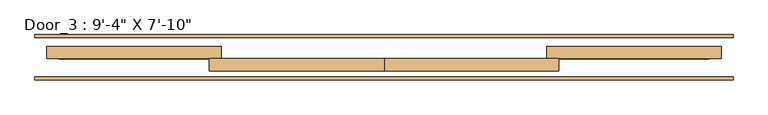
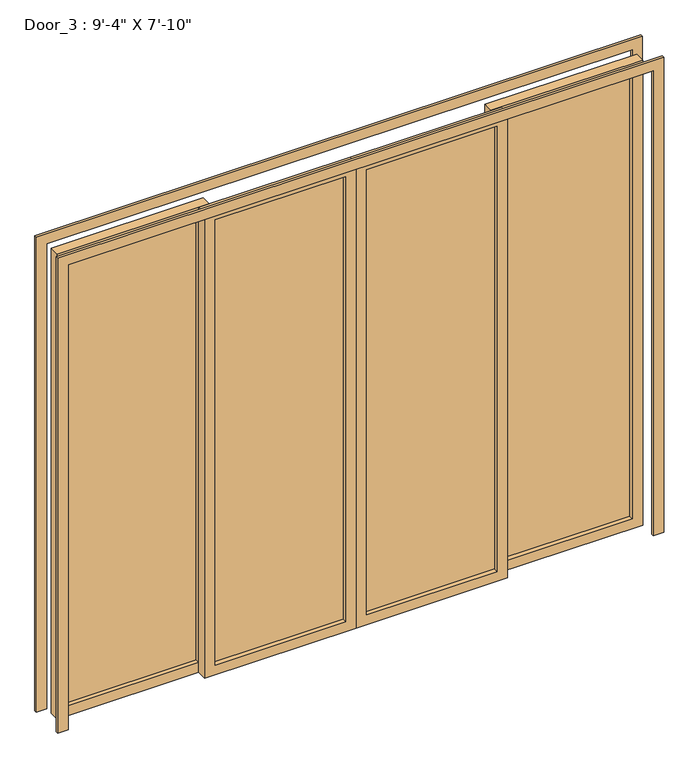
"""IFC4 building model written with IfcOpenShell, lengths in millimetres: door geometry."""

from ifc_helpers import new_model, si_unit, frame, origin, place, context, project, spatial, polyline, outline, extrude, source, transform, mapped, element, save


def door_06ff4b2b(model_context):
    return source(origin(), model_context, "Body", "SweptSolid", [
        extrude(outline(polyline([(2387.6, 1422.4), (0.0, 1422.4), (0.0, 1473.2), (2438.4, 1473.2), (2438.4, -1473.2), (0.0, -1473.2), (0.0, -1422.4), (2387.6, -1422.4), (2387.6, 1422.4)])), frame((0.0, 209.55, 0.0), z_axis=(0.0, 1.0, 0.0), x_axis=(0.0, 0.0, 1.0)), (0.0, 0.0, 1.0), 12.7),
        extrude(outline(polyline([(0.0, 1422.4), (0.0, 1473.2), (2438.4, 1473.2), (2438.4, -1473.2), (0.0, -1473.2), (0.0, -1422.4), (2387.6, -1422.4), (2387.6, 1422.4), (0.0, 1422.4)])), frame((0.0, 31.75, 0.0), z_axis=(0.0, 1.0, 0.0), x_axis=(0.0, 0.0, 1.0)), (0.0, 0.0, 1.0), 12.7),
        extrude(outline(polyline([(-685.8, 101.6), (-50.8, 101.6), (-50.8, 91.5789063), (-685.8, 91.5789063), (-685.8, 101.6)])), frame((0.0, 0.0, 50.8), z_axis=(0.0, 0.0, 1.0), x_axis=(1.0, 0.0, 0.0)), (0.0, 0.0, 1.0), 2286.0),
        extrude(outline(polyline([(2387.6, -736.6), (0.0, -736.6), (0.0, 0.0), (2387.6, 0.0), (2387.6, -736.6)]), holes=[polyline([(50.8, -685.8), (2336.8, -685.8), (2336.8, -50.8), (50.8, -50.8), (50.8, -685.8)])]), frame((0.0, 69.85, 0.0), z_axis=(0.0, 1.0, 0.0), x_axis=(0.0, 0.0, 1.0)), (0.0, 0.0, 1.0), 50.8),
        extrude(outline(polyline([(-1371.6, 152.4), (-736.6, 152.4), (-736.6, 142.3789063), (-1371.6, 142.3789063), (-1371.6, 152.4)])), frame((0.0, 0.0, 50.8), z_axis=(0.0, 0.0, 1.0), x_axis=(1.0, 0.0, 0.0)), (0.0, 0.0, 1.0), 2286.0),
        extrude(outline(polyline([(2387.6, -1422.4), (0.0, -1422.4), (0.0, -685.8), (2387.6, -685.8), (2387.6, -1422.4)]), holes=[polyline([(50.8, -736.6), (50.8, -1371.6), (2336.8, -1371.6), (2336.8, -736.6), (50.8, -736.6)])]), frame((0.0, 120.65, 0.0), z_axis=(0.0, 1.0, 0.0), x_axis=(0.0, 0.0, 1.0)), (0.0, 0.0, 1.0), 50.8),
        extrude(outline(polyline([(50.8, 101.6), (685.8, 101.6), (685.8, 91.5789063), (50.8, 91.5789063), (50.8, 101.6)])), frame((0.0, 0.0, 50.8), z_axis=(0.0, 0.0, 1.0), x_axis=(1.0, 0.0, 0.0)), (0.0, 0.0, 1.0), 2286.0),
        extrude(outline(polyline([(2387.6, 0.0), (0.0, 0.0), (0.0, 736.6), (2387.6, 736.6), (2387.6, 0.0)]), holes=[polyline([(50.8, 685.8), (50.8, 50.8), (2336.8, 50.8), (2336.8, 685.8), (50.8, 685.8)])]), frame((0.0, 69.85, 0.0), z_axis=(0.0, 1.0, 0.0), x_axis=(0.0, 0.0, 1.0)), (0.0, 0.0, 1.0), 50.8),
        extrude(outline(polyline([(736.6, 152.4), (1371.6, 152.4), (1371.6, 142.3789063), (736.6, 142.3789063), (736.6, 152.4)])), frame((0.0, 0.0, 50.8), z_axis=(0.0, 0.0, 1.0), x_axis=(1.0, 0.0, 0.0)), (0.0, 0.0, 1.0), 2286.0),
        extrude(outline(polyline([(2387.6, 685.8), (0.0, 685.8), (0.0, 1422.4), (2387.6, 1422.4), (2387.6, 685.8)]), holes=[polyline([(50.8, 736.6), (2336.8, 736.6), (2336.8, 1371.6), (50.8, 1371.6), (50.8, 736.6)])]), frame((0.0, 120.65, 0.0), z_axis=(0.0, 1.0, 0.0), x_axis=(0.0, 0.0, 1.0)), (0.0, 0.0, 1.0), 50.8),
    ])


if __name__ == "__main__":
    model = new_model("IFC4")
    model_context = context("Model", 3, world=origin())
    ifc_project = project(units=[si_unit("LENGTHUNIT", "METRE", prefix="MILLI")], contexts=[model_context])
    site = spatial("IfcSite", under=ifc_project)
    building = spatial("IfcBuilding", under=site)
    placement = place(None, origin())
    door_shape = door_06ff4b2b(model_context)
    element("IfcDoor", 1, ObjectType="Door_3 : 9'-4\" X 7'-10\"", at=placement, inside=building, context=model_context, shape_type="MappedRepresentation", body=[
        mapped(door_shape, transform((0.0, 0.0, 0.0), x_axis=(1.0, 0.0, 0.0), y_axis=(0.0, 1.0, 0.0), z_axis=(0.0, 0.0, 1.0))),
    ])
    save(model, "model.ifc")
